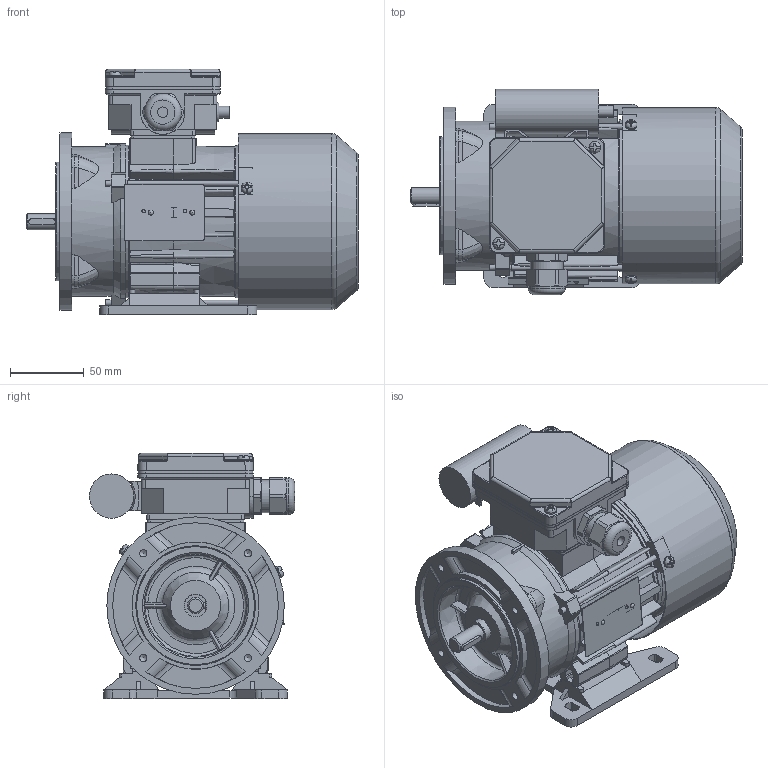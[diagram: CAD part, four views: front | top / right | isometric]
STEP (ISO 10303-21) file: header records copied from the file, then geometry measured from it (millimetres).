
FILE_DESCRIPTION(/* description */ ('Unknown'),/* implementation_level */ '2;1');
FILE_NAME(/* name */ '3SSIEL63-4A1',/* time_stamp */ '2024-06-17T09:21:37+02:00',/* author */ ('Unknown'),/* organization */ ('Unknown'),/* preprocessor_version */ 'ST-DEVELOPER v16.7',/* originating_system */ 'Solid Edge',/* authorisation */ 'Unknown');
FILE_SCHEMA (('AUTOMOTIVE_DESIGN {1 0 10303 214 3 1 1}'));
Length unit declared in the file: millimetre
Products named in the file (1): Czêœæ6
Bounding box: 224.49 x 138.82 x 166 mm (x, y, z)
Volume: 643162.3 mm3; surface area: 366266.5 mm2
Topology: 3 solids, 3 shells, 2036 faces, 5765 edges, 3756 vertices
Faces by surface type: plane 1054, cylinder 601, torus 128, bspline 117, cone 115, sphere 21
Full cylindrical faces by diameter (mm): 2.4 x2, 3 x1, 3.7 x7, 4 x9, 4.5 x6, 4.6 x1, 4.8 x2, 5 x6, 5.8 x4, 6.5 x1, 7 x4, 7.999 x1, 8 x6, 10.999 x1, 12.899 x1, 13.099 x1, 14.998 x2, 15.4 x2, 18.998 x2, 19.498 x1, 19.998 x1, 20.098 x1, 21.518 x4, 22.3 x1, 25 x1, 28 x2, 28.48 x4, 29.997 x1, 31 x2, 32 x1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
Entity records: 82302 total; most frequent: CARTESIAN_POINT 17260, ORIENTED_EDGE 10848, DIRECTION 10110, EDGE_CURVE 5424, AXIS2_PLACEMENT_3D 3673, VERTEX_POINT 3630, LINE 2764, VECTOR 2764
